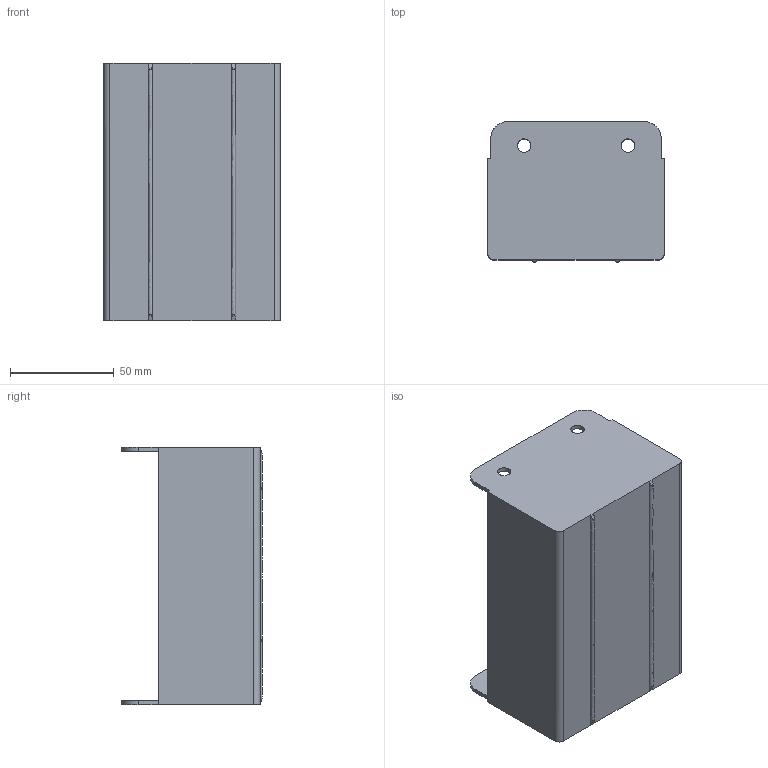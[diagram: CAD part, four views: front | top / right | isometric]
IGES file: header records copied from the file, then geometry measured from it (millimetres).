
Global section: file name: MGSS-FS-200; native system: unknown; preprocessor: unknown; author: unknown; organization: unknown; date: 20230601.144845; units: millimetre
Bounding box: 85 x 67.5 x 124 mm (x, y, z)
Volume: 72388.2 mm3; surface area: 90775.7 mm2
Topology: 2 solids, 2 shells, 52 faces, 132 edges, 84 vertices
Faces by surface type: bspline 52
